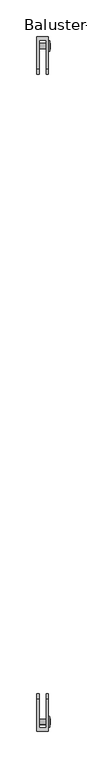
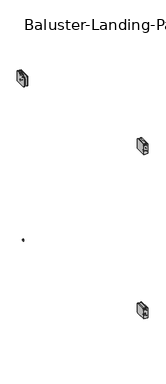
"""IFC4 building model written with IfcOpenShell, lengths in millimetres: railing geometry, Baluster-Landing-Panel-VIVA-BEACON-Lower : Standard_Glass."""

from ifc_helpers import new_model, si_unit, point, frame, origin, place, context, project, spatial, polyline, circle_curve, ellipse_curve, trimmed, outline, extrude, source, transform, mapped, element, save
from ifc_brep_helpers import plane_surface, cylinder_surface, revolved_surface, advanced_brep


def baluster_landing_panel_viva_beacon_lower_standard_glass_8b22f319(model_context):
    return source(origin(), model_context, "Body", "SolidModel", [
        extrude(outline(polyline([(-910.1150835, 973.286725), (-908.0681194, 976.8321709), (-903.9741911, 976.8321709), (-901.9272269, 973.286725), (-903.9741911, 969.7412791), (-908.0681194, 969.7412791), (-910.1150835, 973.286725)])), frame((46.904612, 0.0, 0.0), z_axis=(1.0, 0.0, 0.0), x_axis=(0.0, 1.0, 0.0)), (0.0, 0.0, 1.0), 1.4969696),
        advanced_brep(
        [(33.3375, -909.5666011, 973.286725), (33.3375, -902.4757093, 973.286725), (46.0375, -902.4757093, 973.286725), (46.0375, -909.5666011, 973.286725), (46.0375, -898.6133661, 973.286725), (46.0375, -913.4289443, 973.286725), (46.904612, -907.6772306, 973.286725), (46.904612, -904.3650798, 973.286725), (33.3375, -904.3650798, 973.286725), (33.3375, -907.6772306, 973.286725), (46.8723449, -913.4289443, 973.286725), (46.8723449, -898.6133661, 973.286725), (48.1536169, -899.8946382, 973.286725), (48.1536169, -912.1476723, 973.286725), (48.1536169, -901.7225597, 973.286725), (48.1536169, -910.3197508, 973.286725), (46.904612, -901.7225597, 973.286725), (46.904612, -910.3197508, 973.286725)],
        [
            (0, 1, circle_curve(frame((33.3375, -906.0211552, 973.286725), z_axis=(1.0, 0.0, 0.0), x_axis=(0.0, 1.0, 0.0)), 3.5454459)),
            (1, 2),
            (2, 3, circle_curve(frame((46.0375, -906.0211552, 973.286725), z_axis=(-1.0, 0.0, 0.0), x_axis=(0.0, 1.0, 0.0)), 3.5454459)),
            (3, 0),
            (1, 0, circle_curve(frame((33.3375, -906.0211552, 973.286725), z_axis=(1.0, 0.0, 0.0), x_axis=(0.0, 1.0, 0.0)), 3.5454459)),
            (3, 2, circle_curve(frame((46.0375, -906.0211552, 973.286725), z_axis=(-1.0, 0.0, 0.0), x_axis=(0.0, 1.0, 0.0)), 3.5454459)),
            (2, 4),
            (4, 5, circle_curve(frame((46.0375, -906.0211552, 973.286725), z_axis=(-1.0, 0.0, 0.0), x_axis=(0.0, 1.0, 0.0)), 7.4077891)),
            (5, 3),
            (5, 4, circle_curve(frame((46.0375, -906.0211552, 973.286725), z_axis=(-1.0, 0.0, 0.0), x_axis=(0.0, 1.0, 0.0)), 7.4077891)),
            (6, 7, circle_curve(frame((46.904612, -906.0211552, 973.286725), z_axis=(1.0, 0.0, 0.0), x_axis=(0.0, 1.0, 0.0)), 1.6560754)),
            (7, 8),
            (8, 9, circle_curve(frame((33.3375, -906.0211552, 973.286725), z_axis=(-1.0, 0.0, 0.0), x_axis=(0.0, 1.0, 0.0)), 1.6560754)),
            (9, 6),
            (7, 6, circle_curve(frame((46.904612, -906.0211552, 973.286725), z_axis=(1.0, 0.0, 0.0), x_axis=(0.0, 1.0, 0.0)), 1.6560754)),
            (9, 8, circle_curve(frame((33.3375, -906.0211552, 973.286725), z_axis=(-1.0, 0.0, 0.0), x_axis=(0.0, 1.0, 0.0)), 1.6560754)),
            (10, 11, circle_curve(frame((46.8723449, -906.0211552, 973.286725), z_axis=(1.0, 0.0, 0.0), x_axis=(0.0, 1.0, 0.0)), 7.4077891)),
            (11, 12, circle_curve(frame((46.8723449, -899.8946382, 973.286725), z_axis=(0.0, 0.0, -1.0), x_axis=(0.0, 1.0, 0.0)), 1.281272)),
            (12, 13, circle_curve(frame((48.1536169, -906.0211552, 973.286725), z_axis=(-1.0, 0.0, 0.0), x_axis=(0.0, 1.0, 0.0)), 6.1265171)),
            (13, 10, circle_curve(frame((46.8723449, -912.1476723, 973.286725), z_axis=(0.0, 0.0, -1.0), x_axis=(0.0, -1.0, 0.0)), 1.281272)),
            (11, 10, circle_curve(frame((46.8723449, -906.0211552, 973.286725), z_axis=(1.0, 0.0, 0.0), x_axis=(0.0, 1.0, 0.0)), 7.4077891)),
            (13, 12, circle_curve(frame((48.1536169, -906.0211552, 973.286725), z_axis=(-1.0, 0.0, 0.0), x_axis=(0.0, 1.0, 0.0)), 6.1265171)),
            (12, 14),
            (14, 15, circle_curve(frame((48.1536169, -906.0211552, 973.286725), z_axis=(-1.0, 0.0, 0.0), x_axis=(0.0, 1.0, 0.0)), 4.2985955)),
            (15, 13),
            (15, 14, circle_curve(frame((48.1536169, -906.0211552, 973.286725), z_axis=(-1.0, 0.0, 0.0), x_axis=(0.0, 1.0, 0.0)), 4.2985955)),
            (4, 11),
            (10, 5),
            (8, 1),
            (0, 9),
            (14, 16),
            (16, 17, circle_curve(frame((46.904612, -906.0211552, 973.286725), z_axis=(-1.0, 0.0, 0.0), x_axis=(0.0, 1.0, 0.0)), 4.2985955)),
            (17, 15),
            (17, 16, circle_curve(frame((46.904612, -906.0211552, 973.286725), z_axis=(-1.0, 0.0, 0.0), x_axis=(0.0, 1.0, 0.0)), 4.2985955)),
            (16, 7),
            (6, 17),
        ],
        [
            cylinder_surface(frame((42.5407669, -906.0211552, 973.286725), z_axis=(-1.0, 0.0, 0.0), x_axis=(0.0, 1.0, 0.0)), 3.5454459),
            plane_surface(frame((46.0375, -906.0211552, 973.286725), z_axis=(-1.0, 0.0, 0.0), x_axis=(0.0, 1.0, 0.0))),
            revolved_surface(polyline([(33.3375, -904.3650798, 973.286725), (46.904612, -904.3650798, 973.286725)]), (42.5407669, -906.0211552, 973.286725), (-1.0, 0.0, 0.0)),
            revolved_surface(trimmed(ellipse_curve(frame((46.8723449, -899.8946382, 973.286725), z_axis=(0.0, 0.0, 1.0), x_axis=(0.0, 1.0, 0.0)), 1.281272, 1.281272), [point((48.1536169, -899.8946382, 973.286725))], [point((46.8723449, -898.6133661, 973.286725))], True, "CARTESIAN"), (42.5407669, -906.0211552, 973.286725), (-1.0, 0.0, 0.0)),
            plane_surface(frame((48.1536169, -906.0211552, 973.286725), z_axis=(1.0, 0.0, 0.0), x_axis=(0.0, 1.0, 0.0))),
            cylinder_surface(frame((42.5407669, -906.0211552, 973.286725), z_axis=(-1.0, 0.0, 0.0), x_axis=(0.0, 1.0, 0.0)), 7.4077891),
            plane_surface(frame((33.3375, -906.0211552, 973.286725), z_axis=(-1.0, 0.0, 0.0), x_axis=(0.0, 1.0, 0.0))),
            revolved_surface(polyline([(46.904612, -901.7225596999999, 973.286725), (48.1536169, -901.7225596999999, 973.286725)]), (42.5407669, -906.0211552, 973.286725), (-1.0, 0.0, 0.0)),
            plane_surface(frame((46.904612, -906.0211552, 973.286725), z_axis=(1.0, 0.0, 0.0), x_axis=(0.0, 1.0, 0.0))),
        ],
        [
            (0, [[1, 2, 3, 4]]),
            (0, [[5, -4, 6, -2]]),
            (1, [[-3, 7, 8, 9]]),
            (1, [[-6, -9, 10, -7]]),
            (2, [[11, 12, 13, 14]]),
            (2, [[15, -14, 16, -12]]),
            (3, [[17, 18, 19, 20]]),
            (3, [[21, -20, 22, -18]]),
            (4, [[-19, 23, 24, 25]]),
            (4, [[-22, -25, 26, -23]]),
            (5, [[-8, 27, -17, 28]]),
            (5, [[-10, -28, -21, -27]]),
            (6, [[-13, 29, -1, 30]]),
            (6, [[-16, -30, -5, -29]]),
            (7, [[-24, 31, 32, 33]]),
            (7, [[-26, -33, 34, -31]]),
            (8, [[-32, 35, -11, 36]]),
            (8, [[-34, -36, -15, -35]]),
        ],
    ),
        advanced_brep(
        [(33.3375, -909.5666011, 948.680475), (33.3375, -902.4757093, 948.680475), (46.0375, -902.4757093, 948.680475), (46.0375, -909.5666011, 948.680475), (46.0375, -898.6133661, 948.680475), (46.0375, -913.4289443, 948.680475), (46.904612, -907.6772306, 948.680475), (46.904612, -904.3650798, 948.680475), (33.3375, -904.3650798, 948.680475), (33.3375, -907.6772306, 948.680475), (46.8723449, -913.4289443, 948.680475), (46.8723449, -898.6133661, 948.680475), (48.1536169, -899.8946382, 948.680475), (48.1536169, -912.1476723, 948.680475), (48.1536169, -901.7225597, 948.680475), (48.1536169, -910.3197508, 948.680475), (46.904612, -901.7225597, 948.680475), (46.904612, -910.3197508, 948.680475)],
        [
            (0, 1, circle_curve(frame((33.3375, -906.0211552, 948.680475), z_axis=(1.0, 0.0, 0.0), x_axis=(0.0, 1.0, 0.0)), 3.5454459)),
            (1, 2),
            (2, 3, circle_curve(frame((46.0375, -906.0211552, 948.680475), z_axis=(-1.0, 0.0, 0.0), x_axis=(0.0, 1.0, 0.0)), 3.5454459)),
            (3, 0),
            (1, 0, circle_curve(frame((33.3375, -906.0211552, 948.680475), z_axis=(1.0, 0.0, 0.0), x_axis=(0.0, 1.0, 0.0)), 3.5454459)),
            (3, 2, circle_curve(frame((46.0375, -906.0211552, 948.680475), z_axis=(-1.0, 0.0, 0.0), x_axis=(0.0, 1.0, 0.0)), 3.5454459)),
            (2, 4),
            (4, 5, circle_curve(frame((46.0375, -906.0211552, 948.680475), z_axis=(-1.0, 0.0, 0.0), x_axis=(0.0, 1.0, 0.0)), 7.4077891)),
            (5, 3),
            (5, 4, circle_curve(frame((46.0375, -906.0211552, 948.680475), z_axis=(-1.0, 0.0, 0.0), x_axis=(0.0, 1.0, 0.0)), 7.4077891)),
            (6, 7, circle_curve(frame((46.904612, -906.0211552, 948.680475), z_axis=(1.0, 0.0, 0.0), x_axis=(0.0, 1.0, 0.0)), 1.6560754)),
            (7, 8),
            (8, 9, circle_curve(frame((33.3375, -906.0211552, 948.680475), z_axis=(-1.0, 0.0, 0.0), x_axis=(0.0, 1.0, 0.0)), 1.6560754)),
            (9, 6),
            (7, 6, circle_curve(frame((46.904612, -906.0211552, 948.680475), z_axis=(1.0, 0.0, 0.0), x_axis=(0.0, 1.0, 0.0)), 1.6560754)),
            (9, 8, circle_curve(frame((33.3375, -906.0211552, 948.680475), z_axis=(-1.0, 0.0, 0.0), x_axis=(0.0, 1.0, 0.0)), 1.6560754)),
            (10, 11, circle_curve(frame((46.8723449, -906.0211552, 948.680475), z_axis=(1.0, 0.0, 0.0), x_axis=(0.0, 1.0, 0.0)), 7.4077891)),
            (11, 12, circle_curve(frame((46.8723449, -899.8946382, 948.680475), z_axis=(0.0, 0.0, -1.0), x_axis=(0.0, 1.0, 0.0)), 1.281272)),
            (12, 13, circle_curve(frame((48.1536169, -906.0211552, 948.680475), z_axis=(-1.0, 0.0, 0.0), x_axis=(0.0, 1.0, 0.0)), 6.1265171)),
            (13, 10, circle_curve(frame((46.8723449, -912.1476723, 948.680475), z_axis=(0.0, 0.0, -1.0), x_axis=(0.0, -1.0, 0.0)), 1.281272)),
            (11, 10, circle_curve(frame((46.8723449, -906.0211552, 948.680475), z_axis=(1.0, 0.0, 0.0), x_axis=(0.0, 1.0, 0.0)), 7.4077891)),
            (13, 12, circle_curve(frame((48.1536169, -906.0211552, 948.680475), z_axis=(-1.0, 0.0, 0.0), x_axis=(0.0, 1.0, 0.0)), 6.1265171)),
            (12, 14),
            (14, 15, circle_curve(frame((48.1536169, -906.0211552, 948.680475), z_axis=(-1.0, 0.0, 0.0), x_axis=(0.0, 1.0, 0.0)), 4.2985955)),
            (15, 13),
            (15, 14, circle_curve(frame((48.1536169, -906.0211552, 948.680475), z_axis=(-1.0, 0.0, 0.0), x_axis=(0.0, 1.0, 0.0)), 4.2985955)),
            (8, 1),
            (0, 9),
            (4, 11),
            (10, 5),
            (14, 16),
            (16, 17, circle_curve(frame((46.904612, -906.0211552, 948.680475), z_axis=(-1.0, 0.0, 0.0), x_axis=(0.0, 1.0, 0.0)), 4.2985955)),
            (17, 15),
            (17, 16, circle_curve(frame((46.904612, -906.0211552, 948.680475), z_axis=(-1.0, 0.0, 0.0), x_axis=(0.0, 1.0, 0.0)), 4.2985955)),
            (16, 7),
            (6, 17),
        ],
        [
            cylinder_surface(frame((42.5407669, -906.0211552, 948.680475), z_axis=(-1.0, 0.0, 0.0), x_axis=(0.0, 1.0, 0.0)), 3.5454459),
            plane_surface(frame((46.0375, -906.0211552, 948.680475), z_axis=(-1.0, 0.0, 0.0), x_axis=(0.0, 1.0, 0.0))),
            revolved_surface(polyline([(33.3375, -904.3650798, 948.680475), (46.904612, -904.3650798, 948.680475)]), (42.5407669, -906.0211552, 948.680475), (-1.0, 0.0, 0.0)),
            revolved_surface(trimmed(ellipse_curve(frame((46.8723449, -899.8946382, 948.680475), z_axis=(0.0, 0.0, 1.0), x_axis=(0.0, 1.0, 0.0)), 1.281272, 1.281272), [point((48.1536169, -899.8946382, 948.680475))], [point((46.8723449, -898.6133661, 948.680475))], True, "CARTESIAN"), (42.5407669, -906.0211552, 948.680475), (-1.0, 0.0, 0.0)),
            plane_surface(frame((48.1536169, -906.0211552, 948.680475), z_axis=(1.0, 0.0, 0.0), x_axis=(0.0, 1.0, 0.0))),
            plane_surface(frame((33.3375, -906.0211552, 948.680475), z_axis=(-1.0, 0.0, 0.0), x_axis=(0.0, 1.0, 0.0))),
            cylinder_surface(frame((42.5407669, -906.0211552, 948.680475), z_axis=(-1.0, 0.0, 0.0), x_axis=(0.0, 1.0, 0.0)), 7.4077891),
            revolved_surface(polyline([(46.904612, -901.7225596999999, 948.680475), (48.1536169, -901.7225596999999, 948.680475)]), (42.5407669, -906.0211552, 948.680475), (-1.0, 0.0, 0.0)),
            plane_surface(frame((46.904612, -906.0211552, 948.680475), z_axis=(1.0, 0.0, 0.0), x_axis=(0.0, 1.0, 0.0))),
        ],
        [
            (0, [[1, 2, 3, 4]]),
            (0, [[5, -4, 6, -2]]),
            (1, [[-3, 7, 8, 9]]),
            (1, [[-6, -9, 10, -7]]),
            (2, [[11, 12, 13, 14]]),
            (2, [[15, -14, 16, -12]]),
            (3, [[17, 18, 19, 20]]),
            (3, [[21, -20, 22, -18]]),
            (4, [[-19, 23, 24, 25]]),
            (4, [[-22, -25, 26, -23]]),
            (5, [[-13, 27, -1, 28]]),
            (5, [[-16, -28, -5, -27]]),
            (6, [[-8, 29, -17, 30]]),
            (6, [[-10, -30, -21, -29]]),
            (7, [[-24, 31, 32, 33]]),
            (7, [[-26, -33, 34, -31]]),
            (8, [[-32, 35, -11, 36]]),
            (8, [[-34, -36, -15, -35]]),
        ],
    ),
        extrude(outline(polyline([(-910.1150835, 948.680475), (-908.0681194, 952.2259209), (-903.9741911, 952.2259209), (-901.9272269, 948.680475), (-903.9741911, 945.1350291), (-908.0681194, 945.1350291), (-910.1150835, 948.680475)])), frame((46.904612, 0.0, 0.0), z_axis=(1.0, 0.0, 0.0), x_axis=(0.0, 1.0, 0.0)), (0.0, 0.0, 1.0), 1.4969696),
        advanced_brep(
        [(46.0375, -918.6545, 983.2086), (46.0375, -918.6545, 938.7586), (46.0375, -874.2045, 938.7586), (46.0375, -867.8545, 945.1086), (46.0375, -867.8545, 976.8586), (46.0375, -874.2045, 983.2086), (30.1625, -918.6545, 983.2086), (30.1625, -874.2045, 983.2086), (30.1625, -867.8545, 976.8586), (30.1625, -867.8545, 945.1086), (30.1625, -874.2045, 938.7586), (30.1625, -918.6545, 938.7586), (33.3375, -874.2045, 938.7586), (33.3375, -913.9364196, 938.7586), (42.8625, -913.9364196, 938.7586), (42.8625, -874.2045, 938.7586), (33.3375, -913.9364196, 983.2086), (42.8625, -913.9364196, 983.2086), (42.8625, -874.2045, 983.2086), (42.8625, -867.8545, 976.8586), (42.8625, -867.8545, 945.1086), (33.3375, -867.8545, 945.1086), (33.3375, -867.8545, 976.8586), (33.3375, -874.2045, 983.2086)],
        [
            (0, 1),
            (1, 2),
            (2, 3, circle_curve(frame((46.0375, -874.2045, 945.1086), z_axis=(1.0, 0.0, 0.0), x_axis=(0.0, 1.0, 0.0)), 6.35)),
            (3, 4),
            (4, 5, circle_curve(frame((46.0375, -874.2045, 976.8586), z_axis=(1.0, 0.0, 0.0), x_axis=(0.0, 1.0, 0.0)), 6.35)),
            (5, 0),
            (6, 7),
            (7, 8, circle_curve(frame((30.1625, -874.2045, 976.8586), z_axis=(-1.0, 0.0, 0.0), x_axis=(0.0, 1.0, 0.0)), 6.35)),
            (8, 9),
            (9, 10, circle_curve(frame((30.1625, -874.2045, 945.1086), z_axis=(-1.0, 0.0, 0.0), x_axis=(0.0, 1.0, 0.0)), 6.35)),
            (10, 11),
            (11, 6),
            (0, 6),
            (11, 1),
            (10, 12),
            (12, 13),
            (13, 14),
            (14, 15),
            (15, 2),
            (13, 16),
            (16, 17),
            (17, 14),
            (17, 18),
            (18, 19, circle_curve(frame((42.8625, -874.2045, 976.8586), z_axis=(-1.0, 0.0, 0.0), x_axis=(0.0, 1.0, 0.0)), 6.35)),
            (19, 20),
            (20, 15, circle_curve(frame((42.8625, -874.2045, 945.1086), z_axis=(-1.0, 0.0, 0.0), x_axis=(0.0, 1.0, 0.0)), 6.35)),
            (12, 21, circle_curve(frame((33.3375, -874.2045, 945.1086), z_axis=(1.0, 0.0, 0.0), x_axis=(0.0, 1.0, 0.0)), 6.35)),
            (21, 22),
            (22, 23, circle_curve(frame((33.3375, -874.2045, 976.8586), z_axis=(1.0, 0.0, 0.0), x_axis=(0.0, 1.0, 0.0)), 6.35)),
            (23, 16),
            (20, 3),
            (9, 21),
            (19, 4),
            (8, 22),
            (18, 5),
            (7, 23),
        ],
        [
            plane_surface(frame((46.0375, -918.6545, 938.7586), z_axis=(1.0, 0.0, 0.0), x_axis=(0.0, 0.0, -1.0))),
            plane_surface(frame((30.1625, -918.6545, 938.7586), z_axis=(-1.0, 0.0, 0.0), x_axis=(0.0, 0.0, 1.0))),
            plane_surface(frame((46.0375, -918.6545, 983.2086), z_axis=(0.0, -1.0, 0.0), x_axis=(-1.0, 0.0, 0.0))),
            plane_surface(frame((46.0375, -918.6545, 938.7586), z_axis=(0.0, 0.0, -1.0), x_axis=(-1.0, 0.0, 0.0))),
            plane_surface(frame((33.3375, -913.9364196, 995.9086), z_axis=(0.0, 1.0, 0.0), x_axis=(0.0, 0.0, -1.0))),
            plane_surface(frame((42.8625, -913.9364196, 995.9086), z_axis=(-1.0, 0.0, 0.0), x_axis=(0.0, 0.0, -1.0))),
            plane_surface(frame((33.3375, -855.1545, 995.9086), z_axis=(1.0, 0.0, 0.0), x_axis=(0.0, 0.0, -1.0))),
            cylinder_surface(frame((30.1625, -874.2045, 945.1086), z_axis=(1.0, 0.0, 0.0), x_axis=(0.0, 1.0, 0.0)), 6.35),
            plane_surface(frame((46.0375, -867.8545, 945.1086), z_axis=(0.0, 1.0, 0.0), x_axis=(-1.0, 0.0, 0.0))),
            cylinder_surface(frame((30.1625, -874.2045, 976.8586), z_axis=(1.0, 0.0, 0.0), x_axis=(0.0, 1.0, 0.0)), 6.35),
            plane_surface(frame((46.0375, -874.2045, 983.2086), z_axis=(0.0, 0.0, 1.0), x_axis=(-1.0, 0.0, 0.0))),
        ],
        [
            (0, [[1, 2, 3, 4, 5, 6]]),
            (1, [[7, 8, 9, 10, 11, 12]]),
            (2, [[-1, 13, -12, 14]]),
            (3, [[-2, -14, -11, 15, 16, 17, 18, 19]]),
            (4, [[20, 21, 22, -17]]),
            (5, [[-22, 23, 24, 25, 26, -18]]),
            (6, [[-20, -16, 27, 28, 29, 30]]),
            (7, [[-3, -19, -26, 31]]),
            (7, [[-10, 32, -27, -15]]),
            (8, [[-4, -31, -25, 33]]),
            (8, [[-9, 34, -28, -32]]),
            (9, [[-5, -33, -24, 35]]),
            (9, [[-8, 36, -29, -34]]),
            (10, [[-6, -35, -23, -21, -30, -36, -7, -13]]),
        ],
    ),
        extrude(outline(polyline([(-910.1150835, 225.917125), (-908.0681194, 229.4625709), (-903.9741911, 229.4625709), (-901.9272269, 225.917125), (-903.9741911, 222.3716791), (-908.0681194, 222.3716791), (-910.1150835, 225.917125)])), frame((46.904612, 0.0, 0.0), z_axis=(1.0, 0.0, 0.0), x_axis=(0.0, 1.0, 0.0)), (0.0, 0.0, 1.0), 1.4969696),
        advanced_brep(
        [(33.3375, -909.5666011, 225.917125), (33.3375, -902.4757093, 225.917125), (46.0375, -902.4757093, 225.917125), (46.0375, -909.5666011, 225.917125), (46.0375, -898.6133661, 225.917125), (46.0375, -913.4289443, 225.917125), (46.904612, -907.6772306, 225.917125), (46.904612, -904.3650798, 225.917125), (33.3375, -904.3650798, 225.917125), (33.3375, -907.6772306, 225.917125), (46.8723449, -913.4289443, 225.917125), (46.8723449, -898.6133661, 225.917125), (48.1536169, -899.8946382, 225.917125), (48.1536169, -912.1476723, 225.917125), (48.1536169, -901.7225597, 225.917125), (48.1536169, -910.3197508, 225.917125), (46.904612, -901.7225597, 225.917125), (46.904612, -910.3197508, 225.917125)],
        [
            (0, 1, circle_curve(frame((33.3375, -906.0211552, 225.917125), z_axis=(1.0, 0.0, 0.0), x_axis=(0.0, 1.0, 0.0)), 3.5454459)),
            (1, 2),
            (2, 3, circle_curve(frame((46.0375, -906.0211552, 225.917125), z_axis=(-1.0, 0.0, 0.0), x_axis=(0.0, 1.0, 0.0)), 3.5454459)),
            (3, 0),
            (1, 0, circle_curve(frame((33.3375, -906.0211552, 225.917125), z_axis=(1.0, 0.0, 0.0), x_axis=(0.0, 1.0, 0.0)), 3.5454459)),
            (3, 2, circle_curve(frame((46.0375, -906.0211552, 225.917125), z_axis=(-1.0, 0.0, 0.0), x_axis=(0.0, 1.0, 0.0)), 3.5454459)),
            (2, 4),
            (4, 5, circle_curve(frame((46.0375, -906.0211552, 225.917125), z_axis=(-1.0, 0.0, 0.0), x_axis=(0.0, 1.0, 0.0)), 7.4077891)),
            (5, 3),
            (5, 4, circle_curve(frame((46.0375, -906.0211552, 225.917125), z_axis=(-1.0, 0.0, 0.0), x_axis=(0.0, 1.0, 0.0)), 7.4077891)),
            (6, 7, circle_curve(frame((46.904612, -906.0211552, 225.917125), z_axis=(1.0, 0.0, 0.0), x_axis=(0.0, 1.0, 0.0)), 1.6560754)),
            (7, 8),
            (8, 9, circle_curve(frame((33.3375, -906.0211552, 225.917125), z_axis=(-1.0, 0.0, 0.0), x_axis=(0.0, 1.0, 0.0)), 1.6560754)),
            (9, 6),
            (7, 6, circle_curve(frame((46.904612, -906.0211552, 225.917125), z_axis=(1.0, 0.0, 0.0), x_axis=(0.0, 1.0, 0.0)), 1.6560754)),
            (9, 8, circle_curve(frame((33.3375, -906.0211552, 225.917125), z_axis=(-1.0, 0.0, 0.0), x_axis=(0.0, 1.0, 0.0)), 1.6560754)),
            (10, 11, circle_curve(frame((46.8723449, -906.0211552, 225.917125), z_axis=(1.0, 0.0, 0.0), x_axis=(0.0, 1.0, 0.0)), 7.4077891)),
            (11, 12, circle_curve(frame((46.8723449, -899.8946382, 225.917125), z_axis=(0.0, 0.0, -1.0), x_axis=(0.0, 1.0, 0.0)), 1.281272)),
            (12, 13, circle_curve(frame((48.1536169, -906.0211552, 225.917125), z_axis=(-1.0, 0.0, 0.0), x_axis=(0.0, 1.0, 0.0)), 6.1265171)),
            (13, 10, circle_curve(frame((46.8723449, -912.1476723, 225.917125), z_axis=(0.0, 0.0, -1.0), x_axis=(0.0, -1.0, 0.0)), 1.281272)),
            (11, 10, circle_curve(frame((46.8723449, -906.0211552, 225.917125), z_axis=(1.0, 0.0, 0.0), x_axis=(0.0, 1.0, 0.0)), 7.4077891)),
            (13, 12, circle_curve(frame((48.1536169, -906.0211552, 225.917125), z_axis=(-1.0, 0.0, 0.0), x_axis=(0.0, 1.0, 0.0)), 6.1265171)),
            (12, 14),
            (14, 15, circle_curve(frame((48.1536169, -906.0211552, 225.917125), z_axis=(-1.0, 0.0, 0.0), x_axis=(0.0, 1.0, 0.0)), 4.2985955)),
            (15, 13),
            (15, 14, circle_curve(frame((48.1536169, -906.0211552, 225.917125), z_axis=(-1.0, 0.0, 0.0), x_axis=(0.0, 1.0, 0.0)), 4.2985955)),
            (4, 11),
            (10, 5),
            (8, 1),
            (0, 9),
            (14, 16),
            (16, 17, circle_curve(frame((46.904612, -906.0211552, 225.917125), z_axis=(-1.0, 0.0, 0.0), x_axis=(0.0, 1.0, 0.0)), 4.2985955)),
            (17, 15),
            (17, 16, circle_curve(frame((46.904612, -906.0211552, 225.917125), z_axis=(-1.0, 0.0, 0.0), x_axis=(0.0, 1.0, 0.0)), 4.2985955)),
            (16, 7),
            (6, 17),
        ],
        [
            cylinder_surface(frame((42.5407669, -906.0211552, 225.917125), z_axis=(-1.0, 0.0, 0.0), x_axis=(0.0, 1.0, 0.0)), 3.5454459),
            plane_surface(frame((46.0375, -906.0211552, 225.917125), z_axis=(-1.0, 0.0, 0.0), x_axis=(0.0, 1.0, 0.0))),
            revolved_surface(polyline([(33.3375, -904.3650798, 225.917125), (46.904612, -904.3650798, 225.917125)]), (42.5407669, -906.0211552, 225.917125), (-1.0, 0.0, 0.0)),
            revolved_surface(trimmed(ellipse_curve(frame((46.8723449, -899.8946382, 225.917125), z_axis=(0.0, 0.0, 1.0), x_axis=(0.0, 1.0, 0.0)), 1.281272, 1.281272), [point((48.1536169, -899.8946382, 225.917125))], [point((46.8723449, -898.6133661, 225.917125))], True, "CARTESIAN"), (42.5407669, -906.0211552, 225.917125), (-1.0, 0.0, 0.0)),
            plane_surface(frame((48.1536169, -906.0211552, 225.917125), z_axis=(1.0, 0.0, 0.0), x_axis=(0.0, 1.0, 0.0))),
            cylinder_surface(frame((42.5407669, -906.0211552, 225.917125), z_axis=(-1.0, 0.0, 0.0), x_axis=(0.0, 1.0, 0.0)), 7.4077891),
            plane_surface(frame((33.3375, -906.0211552, 225.917125), z_axis=(-1.0, 0.0, 0.0), x_axis=(0.0, 1.0, 0.0))),
            revolved_surface(polyline([(46.904612, -901.7225596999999, 225.917125), (48.1536169, -901.7225596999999, 225.917125)]), (42.5407669, -906.0211552, 225.917125), (-1.0, 0.0, 0.0)),
            plane_surface(frame((46.904612, -906.0211552, 225.917125), z_axis=(1.0, 0.0, 0.0), x_axis=(0.0, 1.0, 0.0))),
        ],
        [
            (0, [[1, 2, 3, 4]]),
            (0, [[5, -4, 6, -2]]),
            (1, [[-3, 7, 8, 9]]),
            (1, [[-6, -9, 10, -7]]),
            (2, [[11, 12, 13, 14]]),
            (2, [[15, -14, 16, -12]]),
            (3, [[17, 18, 19, 20]]),
            (3, [[21, -20, 22, -18]]),
            (4, [[-19, 23, 24, 25]]),
            (4, [[-22, -25, 26, -23]]),
            (5, [[-8, 27, -17, 28]]),
            (5, [[-10, -28, -21, -27]]),
            (6, [[-13, 29, -1, 30]]),
            (6, [[-16, -30, -5, -29]]),
            (7, [[-24, 31, 32, 33]]),
            (7, [[-26, -33, 34, -31]]),
            (8, [[-32, 35, -11, 36]]),
            (8, [[-34, -36, -15, -35]]),
        ],
    ),
        advanced_brep(
        [(33.3375, -909.5666011, 201.310875), (33.3375, -902.4757093, 201.310875), (46.0375, -902.4757093, 201.310875), (46.0375, -909.5666011, 201.310875), (46.0375, -898.6133661, 201.310875), (46.0375, -913.4289443, 201.310875), (46.904612, -907.6772306, 201.310875), (46.904612, -904.3650798, 201.310875), (33.3375, -904.3650798, 201.310875), (33.3375, -907.6772306, 201.310875), (46.8723449, -913.4289443, 201.310875), (46.8723449, -898.6133661, 201.310875), (48.1536169, -899.8946382, 201.310875), (48.1536169, -912.1476723, 201.310875), (48.1536169, -901.7225597, 201.310875), (48.1536169, -910.3197508, 201.310875), (46.904612, -901.7225597, 201.310875), (46.904612, -910.3197508, 201.310875)],
        [
            (0, 1, circle_curve(frame((33.3375, -906.0211552, 201.310875), z_axis=(1.0, 0.0, 0.0), x_axis=(0.0, 1.0, 0.0)), 3.5454459)),
            (1, 2),
            (2, 3, circle_curve(frame((46.0375, -906.0211552, 201.310875), z_axis=(-1.0, 0.0, 0.0), x_axis=(0.0, 1.0, 0.0)), 3.5454459)),
            (3, 0),
            (1, 0, circle_curve(frame((33.3375, -906.0211552, 201.310875), z_axis=(1.0, 0.0, 0.0), x_axis=(0.0, 1.0, 0.0)), 3.5454459)),
            (3, 2, circle_curve(frame((46.0375, -906.0211552, 201.310875), z_axis=(-1.0, 0.0, 0.0), x_axis=(0.0, 1.0, 0.0)), 3.5454459)),
            (2, 4),
            (4, 5, circle_curve(frame((46.0375, -906.0211552, 201.310875), z_axis=(-1.0, 0.0, 0.0), x_axis=(0.0, 1.0, 0.0)), 7.4077891)),
            (5, 3),
            (5, 4, circle_curve(frame((46.0375, -906.0211552, 201.310875), z_axis=(-1.0, 0.0, 0.0), x_axis=(0.0, 1.0, 0.0)), 7.4077891)),
            (6, 7, circle_curve(frame((46.904612, -906.0211552, 201.310875), z_axis=(1.0, 0.0, 0.0), x_axis=(0.0, 1.0, 0.0)), 1.6560754)),
            (7, 8),
            (8, 9, circle_curve(frame((33.3375, -906.0211552, 201.310875), z_axis=(-1.0, 0.0, 0.0), x_axis=(0.0, 1.0, 0.0)), 1.6560754)),
            (9, 6),
            (7, 6, circle_curve(frame((46.904612, -906.0211552, 201.310875), z_axis=(1.0, 0.0, 0.0), x_axis=(0.0, 1.0, 0.0)), 1.6560754)),
            (9, 8, circle_curve(frame((33.3375, -906.0211552, 201.310875), z_axis=(-1.0, 0.0, 0.0), x_axis=(0.0, 1.0, 0.0)), 1.6560754)),
            (10, 11, circle_curve(frame((46.8723449, -906.0211552, 201.310875), z_axis=(1.0, 0.0, 0.0), x_axis=(0.0, 1.0, 0.0)), 7.4077891)),
            (11, 12, circle_curve(frame((46.8723449, -899.8946382, 201.310875), z_axis=(0.0, 0.0, -1.0), x_axis=(0.0, 1.0, 0.0)), 1.281272)),
            (12, 13, circle_curve(frame((48.1536169, -906.0211552, 201.310875), z_axis=(-1.0, 0.0, 0.0), x_axis=(0.0, 1.0, 0.0)), 6.1265171)),
            (13, 10, circle_curve(frame((46.8723449, -912.1476723, 201.310875), z_axis=(0.0, 0.0, -1.0), x_axis=(0.0, -1.0, 0.0)), 1.281272)),
            (11, 10, circle_curve(frame((46.8723449, -906.0211552, 201.310875), z_axis=(1.0, 0.0, 0.0), x_axis=(0.0, 1.0, 0.0)), 7.4077891)),
            (13, 12, circle_curve(frame((48.1536169, -906.0211552, 201.310875), z_axis=(-1.0, 0.0, 0.0), x_axis=(0.0, 1.0, 0.0)), 6.1265171)),
            (12, 14),
            (14, 15, circle_curve(frame((48.1536169, -906.0211552, 201.310875), z_axis=(-1.0, 0.0, 0.0), x_axis=(0.0, 1.0, 0.0)), 4.2985955)),
            (15, 13),
            (15, 14, circle_curve(frame((48.1536169, -906.0211552, 201.310875), z_axis=(-1.0, 0.0, 0.0), x_axis=(0.0, 1.0, 0.0)), 4.2985955)),
            (8, 1),
            (0, 9),
            (4, 11),
            (10, 5),
            (14, 16),
            (16, 17, circle_curve(frame((46.904612, -906.0211552, 201.310875), z_axis=(-1.0, 0.0, 0.0), x_axis=(0.0, 1.0, 0.0)), 4.2985955)),
            (17, 15),
            (17, 16, circle_curve(frame((46.904612, -906.0211552, 201.310875), z_axis=(-1.0, 0.0, 0.0), x_axis=(0.0, 1.0, 0.0)), 4.2985955)),
            (16, 7),
            (6, 17),
        ],
        [
            cylinder_surface(frame((42.5407669, -906.0211552, 201.310875), z_axis=(-1.0, 0.0, 0.0), x_axis=(0.0, 1.0, 0.0)), 3.5454459),
            plane_surface(frame((46.0375, -906.0211552, 201.310875), z_axis=(-1.0, 0.0, 0.0), x_axis=(0.0, 1.0, 0.0))),
            revolved_surface(polyline([(33.3375, -904.3650798, 201.310875), (46.904612, -904.3650798, 201.310875)]), (42.5407669, -906.0211552, 201.310875), (-1.0, 0.0, 0.0)),
            revolved_surface(trimmed(ellipse_curve(frame((46.8723449, -899.8946382, 201.310875), z_axis=(0.0, 0.0, 1.0), x_axis=(0.0, 1.0, 0.0)), 1.281272, 1.281272), [point((48.1536169, -899.8946382, 201.310875))], [point((46.8723449, -898.6133661, 201.310875))], True, "CARTESIAN"), (42.5407669, -906.0211552, 201.310875), (-1.0, 0.0, 0.0)),
            plane_surface(frame((48.1536169, -906.0211552, 201.310875), z_axis=(1.0, 0.0, 0.0), x_axis=(0.0, 1.0, 0.0))),
            plane_surface(frame((33.3375, -906.0211552, 201.310875), z_axis=(-1.0, 0.0, 0.0), x_axis=(0.0, 1.0, 0.0))),
            cylinder_surface(frame((42.5407669, -906.0211552, 201.310875), z_axis=(-1.0, 0.0, 0.0), x_axis=(0.0, 1.0, 0.0)), 7.4077891),
            revolved_surface(polyline([(46.904612, -901.7225596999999, 201.310875), (48.1536169, -901.7225596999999, 201.310875)]), (42.5407669, -906.0211552, 201.310875), (-1.0, 0.0, 0.0)),
            plane_surface(frame((46.904612, -906.0211552, 201.310875), z_axis=(1.0, 0.0, 0.0), x_axis=(0.0, 1.0, 0.0))),
        ],
        [
            (0, [[1, 2, 3, 4]]),
            (0, [[5, -4, 6, -2]]),
            (1, [[-3, 7, 8, 9]]),
            (1, [[-6, -9, 10, -7]]),
            (2, [[11, 12, 13, 14]]),
            (2, [[15, -14, 16, -12]]),
            (3, [[17, 18, 19, 20]]),
            (3, [[21, -20, 22, -18]]),
            (4, [[-19, 23, 24, 25]]),
            (4, [[-22, -25, 26, -23]]),
            (5, [[-13, 27, -1, 28]]),
            (5, [[-16, -28, -5, -27]]),
            (6, [[-8, 29, -17, 30]]),
            (6, [[-10, -30, -21, -29]]),
            (7, [[-24, 31, 32, 33]]),
            (7, [[-26, -33, 34, -31]]),
            (8, [[-32, 35, -11, 36]]),
            (8, [[-34, -36, -15, -35]]),
        ],
    ),
        extrude(outline(polyline([(-910.1150835, 201.310875), (-908.0681194, 204.8563209), (-903.9741911, 204.8563209), (-901.9272269, 201.310875), (-903.9741911, 197.7654291), (-908.0681194, 197.7654291), (-910.1150835, 201.310875)])), frame((46.904612, 0.0, 0.0), z_axis=(1.0, 0.0, 0.0), x_axis=(0.0, 1.0, 0.0)), (0.0, 0.0, 1.0), 1.4969696),
        advanced_brep(
        [(46.0375, -918.6545, 235.839), (46.0375, -918.6545, 191.389), (46.0375, -874.2045, 191.389), (46.0375, -867.8545, 197.739), (46.0375, -867.8545, 229.489), (46.0375, -874.2045, 235.839), (30.1625, -918.6545, 235.839), (30.1625, -874.2045, 235.839), (30.1625, -867.8545, 229.489), (30.1625, -867.8545, 197.739), (30.1625, -874.2045, 191.389), (30.1625, -918.6545, 191.389), (33.3375, -874.2045, 191.389), (33.3375, -913.9364196, 191.389), (42.8625, -913.9364196, 191.389), (42.8625, -874.2045, 191.389), (33.3375, -913.9364196, 235.839), (42.8625, -913.9364196, 235.839), (42.8625, -874.2045, 235.839), (42.8625, -867.8545, 229.489), (42.8625, -867.8545, 197.739), (33.3375, -867.8545, 197.739), (33.3375, -867.8545, 229.489), (33.3375, -874.2045, 235.839)],
        [
            (0, 1),
            (1, 2),
            (2, 3, circle_curve(frame((46.0375, -874.2045, 197.739), z_axis=(1.0, 0.0, 0.0), x_axis=(0.0, 1.0, 0.0)), 6.35)),
            (3, 4),
            (4, 5, circle_curve(frame((46.0375, -874.2045, 229.489), z_axis=(1.0, 0.0, 0.0), x_axis=(0.0, 1.0, 0.0)), 6.35)),
            (5, 0),
            (6, 7),
            (7, 8, circle_curve(frame((30.1625, -874.2045, 229.489), z_axis=(-1.0, 0.0, 0.0), x_axis=(0.0, 1.0, 0.0)), 6.35)),
            (8, 9),
            (9, 10, circle_curve(frame((30.1625, -874.2045, 197.739), z_axis=(-1.0, 0.0, 0.0), x_axis=(0.0, 1.0, 0.0)), 6.35)),
            (10, 11),
            (11, 6),
            (0, 6),
            (11, 1),
            (10, 12),
            (12, 13),
            (13, 14),
            (14, 15),
            (15, 2),
            (13, 16),
            (16, 17),
            (17, 14),
            (17, 18),
            (18, 19, circle_curve(frame((42.8625, -874.2045, 229.489), z_axis=(-1.0, 0.0, 0.0), x_axis=(0.0, 1.0, 0.0)), 6.35)),
            (19, 20),
            (20, 15, circle_curve(frame((42.8625, -874.2045, 197.739), z_axis=(-1.0, 0.0, 0.0), x_axis=(0.0, 1.0, 0.0)), 6.35)),
            (12, 21, circle_curve(frame((33.3375, -874.2045, 197.739), z_axis=(1.0, 0.0, 0.0), x_axis=(0.0, 1.0, 0.0)), 6.35)),
            (21, 22),
            (22, 23, circle_curve(frame((33.3375, -874.2045, 229.489), z_axis=(1.0, 0.0, 0.0), x_axis=(0.0, 1.0, 0.0)), 6.35)),
            (23, 16),
            (20, 3),
            (9, 21),
            (19, 4),
            (8, 22),
            (18, 5),
            (7, 23),
        ],
        [
            plane_surface(frame((46.0375, -918.6545, 191.389), z_axis=(1.0, 0.0, 0.0), x_axis=(0.0, 0.0, -1.0))),
            plane_surface(frame((30.1625, -918.6545, 191.389), z_axis=(-1.0, 0.0, 0.0), x_axis=(0.0, 0.0, 1.0))),
            plane_surface(frame((46.0375, -918.6545, 235.839), z_axis=(0.0, -1.0, 0.0), x_axis=(-1.0, 0.0, 0.0))),
            plane_surface(frame((46.0375, -918.6545, 191.389), z_axis=(0.0, 0.0, -1.0), x_axis=(-1.0, 0.0, 0.0))),
            plane_surface(frame((33.3375, -913.9364196, 248.539), z_axis=(0.0, 1.0, 0.0), x_axis=(0.0, 0.0, -1.0))),
            plane_surface(frame((42.8625, -913.9364196, 248.539), z_axis=(-1.0, 0.0, 0.0), x_axis=(0.0, 0.0, -1.0))),
            plane_surface(frame((33.3375, -855.1545, 248.539), z_axis=(1.0, 0.0, 0.0), x_axis=(0.0, 0.0, -1.0))),
            cylinder_surface(frame((30.1625, -874.2045, 197.739), z_axis=(1.0, 0.0, 0.0), x_axis=(0.0, 1.0, 0.0)), 6.35),
            plane_surface(frame((46.0375, -867.8545, 197.739), z_axis=(0.0, 1.0, 0.0), x_axis=(-1.0, 0.0, 0.0))),
            cylinder_surface(frame((30.1625, -874.2045, 229.489), z_axis=(1.0, 0.0, 0.0), x_axis=(0.0, 1.0, 0.0)), 6.35),
            plane_surface(frame((46.0375, -874.2045, 235.839), z_axis=(0.0, 0.0, 1.0), x_axis=(-1.0, 0.0, 0.0))),
        ],
        [
            (0, [[1, 2, 3, 4, 5, 6]]),
            (1, [[7, 8, 9, 10, 11, 12]]),
            (2, [[-1, 13, -12, 14]]),
            (3, [[-2, -14, -11, 15, 16, 17, 18, 19]]),
            (4, [[20, 21, 22, -17]]),
            (5, [[-22, 23, 24, 25, 26, -18]]),
            (6, [[-20, -16, 27, 28, 29, 30]]),
            (7, [[-3, -19, -26, 31]]),
            (7, [[-10, 32, -27, -15]]),
            (8, [[-4, -31, -25, 33]]),
            (8, [[-9, 34, -28, -32]]),
            (9, [[-5, -33, -24, 35]]),
            (9, [[-8, 36, -29, -34]]),
            (10, [[-6, -35, -23, -21, -30, -36, -7, -13]]),
        ],
    ),
        extrude(outline(polyline([(18.4480835, 736.5329842), (16.4011194, 732.9875382), (12.3071911, 732.9875382), (10.2602269, 736.5329842), (12.3071911, 740.0784301), (16.4011194, 740.0784301), (18.4480835, 736.5329842)])), frame((46.904612, 0.0, 0.0), z_axis=(1.0, 0.0, 0.0), x_axis=(0.0, 1.0, 0.0)), (0.0, 0.0, 1.0), 1.4969696),
        advanced_brep(
        [(33.3375, 17.8996011, 736.5329842), (46.0375, 17.8996011, 736.5329842), (46.0375, 10.8087093, 736.5329842), (33.3375, 10.8087093, 736.5329842), (46.0375, 21.7619443, 736.5329842), (46.0375, 6.9463661, 736.5329842), (46.904612, 16.0102306, 736.5329842), (33.3375, 16.0102306, 736.5329842), (33.3375, 12.6980798, 736.5329842), (46.904612, 12.6980798, 736.5329842), (46.8723449, 21.7619443, 736.5329842), (48.1536169, 20.4806723, 736.5329842), (48.1536169, 8.2276382, 736.5329842), (46.8723449, 6.9463661, 736.5329842), (48.1536169, 18.6527508, 736.5329842), (48.1536169, 10.0555597, 736.5329842), (46.904612, 18.6527508, 736.5329842), (46.904612, 10.0555597, 736.5329842)],
        [
            (0, 1),
            (1, 2, circle_curve(frame((46.0375, 14.3541552, 736.5329842), z_axis=(-1.0, 0.0, 0.0), x_axis=(0.0, -1.0, 0.0)), 3.5454459)),
            (2, 3),
            (3, 0, circle_curve(frame((33.3375, 14.3541552, 736.5329842), z_axis=(1.0, 0.0, 0.0), x_axis=(0.0, -1.0, 0.0)), 3.5454459)),
            (2, 1, circle_curve(frame((46.0375, 14.3541552, 736.5329842), z_axis=(-1.0, 0.0, 0.0), x_axis=(0.0, -1.0, 0.0)), 3.5454459)),
            (0, 3, circle_curve(frame((33.3375, 14.3541552, 736.5329842), z_axis=(1.0, 0.0, 0.0), x_axis=(0.0, -1.0, 0.0)), 3.5454459)),
            (1, 4),
            (4, 5, circle_curve(frame((46.0375, 14.3541552, 736.5329842), z_axis=(-1.0, 0.0, 0.0), x_axis=(0.0, -1.0, 0.0)), 7.4077891)),
            (5, 2),
            (5, 4, circle_curve(frame((46.0375, 14.3541552, 736.5329842), z_axis=(-1.0, 0.0, 0.0), x_axis=(0.0, -1.0, 0.0)), 7.4077891)),
            (6, 7),
            (7, 8, circle_curve(frame((33.3375, 14.3541552, 736.5329842), z_axis=(-1.0, 0.0, 0.0), x_axis=(0.0, -1.0, 0.0)), 1.6560754)),
            (8, 9),
            (9, 6, circle_curve(frame((46.904612, 14.3541552, 736.5329842), z_axis=(1.0, 0.0, 0.0), x_axis=(0.0, -1.0, 0.0)), 1.6560754)),
            (8, 7, circle_curve(frame((33.3375, 14.3541552, 736.5329842), z_axis=(-1.0, 0.0, 0.0), x_axis=(0.0, -1.0, 0.0)), 1.6560754)),
            (6, 9, circle_curve(frame((46.904612, 14.3541552, 736.5329842), z_axis=(1.0, 0.0, 0.0), x_axis=(0.0, -1.0, 0.0)), 1.6560754)),
            (10, 11, circle_curve(frame((46.8723449, 20.4806723, 736.5329842), z_axis=(0.0, 0.0, -1.0), x_axis=(0.0, 1.0, 0.0)), 1.281272)),
            (11, 12, circle_curve(frame((48.1536169, 14.3541552, 736.5329842), z_axis=(-1.0, 0.0, 0.0), x_axis=(0.0, -1.0, 0.0)), 6.1265171)),
            (12, 13, circle_curve(frame((46.8723449, 8.2276382, 736.5329842), z_axis=(0.0, 0.0, -1.0), x_axis=(0.0, -1.0, 0.0)), 1.281272)),
            (13, 10, circle_curve(frame((46.8723449, 14.3541552, 736.5329842), z_axis=(1.0, 0.0, 0.0), x_axis=(0.0, -1.0, 0.0)), 7.4077891)),
            (12, 11, circle_curve(frame((48.1536169, 14.3541552, 736.5329842), z_axis=(-1.0, 0.0, 0.0), x_axis=(0.0, -1.0, 0.0)), 6.1265171)),
            (10, 13, circle_curve(frame((46.8723449, 14.3541552, 736.5329842), z_axis=(1.0, 0.0, 0.0), x_axis=(0.0, -1.0, 0.0)), 7.4077891)),
            (11, 14),
            (14, 15, circle_curve(frame((48.1536169, 14.3541552, 736.5329842), z_axis=(-1.0, 0.0, 0.0), x_axis=(0.0, -1.0, 0.0)), 4.2985955)),
            (15, 12),
            (15, 14, circle_curve(frame((48.1536169, 14.3541552, 736.5329842), z_axis=(-1.0, 0.0, 0.0), x_axis=(0.0, -1.0, 0.0)), 4.2985955)),
            (4, 10),
            (13, 5),
            (7, 0),
            (3, 8),
            (14, 16),
            (16, 17, circle_curve(frame((46.904612, 14.3541552, 736.5329842), z_axis=(-1.0, 0.0, 0.0), x_axis=(0.0, -1.0, 0.0)), 4.2985955)),
            (17, 15),
            (17, 16, circle_curve(frame((46.904612, 14.3541552, 736.5329842), z_axis=(-1.0, 0.0, 0.0), x_axis=(0.0, -1.0, 0.0)), 4.2985955)),
            (16, 6),
            (9, 17),
        ],
        [
            cylinder_surface(frame((42.5407669, 14.3541552, 736.5329842), z_axis=(-1.0, 0.0, 0.0), x_axis=(0.0, -1.0, 0.0)), 3.5454459),
            plane_surface(frame((46.0375, 14.3541552, 736.5329842), z_axis=(-1.0, 0.0, 0.0), x_axis=(0.0, -1.0, 0.0))),
            revolved_surface(polyline([(33.3375, 12.698079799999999, 736.5329842), (46.904612, 12.698079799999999, 736.5329842)]), (42.5407669, 14.3541552, 736.5329842), (-1.0, 0.0, 0.0)),
            revolved_surface(trimmed(ellipse_curve(frame((46.8723449, 8.2276382, 736.5329842), z_axis=(0.0, 0.0, -1.0), x_axis=(0.0, -1.0, 0.0)), 1.281272, 1.281272), [point((48.1536169, 8.2276382, 736.5329842))], [point((46.8723449, 6.9463661, 736.5329842))], True, "CARTESIAN"), (42.5407669, 14.3541552, 736.5329842), (-1.0, 0.0, 0.0)),
            plane_surface(frame((48.1536169, 14.3541552, 736.5329842), z_axis=(1.0, 0.0, 0.0), x_axis=(0.0, -1.0, 0.0))),
            cylinder_surface(frame((42.5407669, 14.3541552, 736.5329842), z_axis=(-1.0, 0.0, 0.0), x_axis=(0.0, -1.0, 0.0)), 7.4077891),
            plane_surface(frame((33.3375, 14.3541552, 736.5329842), z_axis=(-1.0, 0.0, 0.0), x_axis=(0.0, -1.0, 0.0))),
            revolved_surface(polyline([(46.904612, 10.0555597, 736.5329842), (48.1536169, 10.0555597, 736.5329842)]), (42.5407669, 14.3541552, 736.5329842), (-1.0, 0.0, 0.0)),
            plane_surface(frame((46.904612, 14.3541552, 736.5329842), z_axis=(1.0, 0.0, 0.0), x_axis=(0.0, -1.0, 0.0))),
        ],
        [
            (0, [[1, 2, 3, 4]]),
            (0, [[-3, 5, -1, 6]]),
            (1, [[7, 8, 9, -2]]),
            (1, [[-9, 10, -7, -5]]),
            (2, [[11, 12, 13, 14]]),
            (2, [[-13, 15, -11, 16]]),
            (3, [[17, 18, 19, 20]]),
            (3, [[-19, 21, -17, 22]]),
            (4, [[23, 24, 25, -18]]),
            (4, [[-25, 26, -23, -21]]),
            (5, [[27, -20, 28, -8]]),
            (5, [[-28, -22, -27, -10]]),
            (6, [[29, -4, 30, -12]]),
            (6, [[-30, -6, -29, -15]]),
            (7, [[31, 32, 33, -24]]),
            (7, [[-33, 34, -31, -26]]),
            (8, [[35, -14, 36, -32]]),
            (8, [[-36, -16, -35, -34]]),
        ],
    ),
        advanced_brep(
        [(33.3375, 17.8996011, 711.9267342), (46.0375, 17.8996011, 711.9267342), (46.0375, 10.8087093, 711.9267342), (33.3375, 10.8087093, 711.9267342), (46.0375, 21.7619443, 711.9267342), (46.0375, 6.9463661, 711.9267342), (46.904612, 16.0102306, 711.9267342), (33.3375, 16.0102306, 711.9267342), (33.3375, 12.6980798, 711.9267342), (46.904612, 12.6980798, 711.9267342), (46.8723449, 21.7619443, 711.9267342), (48.1536169, 20.4806723, 711.9267342), (48.1536169, 8.2276382, 711.9267342), (46.8723449, 6.9463661, 711.9267342), (48.1536169, 18.6527508, 711.9267342), (48.1536169, 10.0555597, 711.9267342), (46.904612, 18.6527508, 711.9267342), (46.904612, 10.0555597, 711.9267342)],
        [
            (0, 1),
            (1, 2, circle_curve(frame((46.0375, 14.3541552, 711.9267342), z_axis=(-1.0, 0.0, 0.0), x_axis=(0.0, -1.0, 0.0)), 3.5454459)),
            (2, 3),
            (3, 0, circle_curve(frame((33.3375, 14.3541552, 711.9267342), z_axis=(1.0, 0.0, 0.0), x_axis=(0.0, -1.0, 0.0)), 3.5454459)),
            (2, 1, circle_curve(frame((46.0375, 14.3541552, 711.9267342), z_axis=(-1.0, 0.0, 0.0), x_axis=(0.0, -1.0, 0.0)), 3.5454459)),
            (0, 3, circle_curve(frame((33.3375, 14.3541552, 711.9267342), z_axis=(1.0, 0.0, 0.0), x_axis=(0.0, -1.0, 0.0)), 3.5454459)),
            (1, 4),
            (4, 5, circle_curve(frame((46.0375, 14.3541552, 711.9267342), z_axis=(-1.0, 0.0, 0.0), x_axis=(0.0, -1.0, 0.0)), 7.4077891)),
            (5, 2),
            (5, 4, circle_curve(frame((46.0375, 14.3541552, 711.9267342), z_axis=(-1.0, 0.0, 0.0), x_axis=(0.0, -1.0, 0.0)), 7.4077891)),
            (6, 7),
            (7, 8, circle_curve(frame((33.3375, 14.3541552, 711.9267342), z_axis=(-1.0, 0.0, 0.0), x_axis=(0.0, -1.0, 0.0)), 1.6560754)),
            (8, 9),
            (9, 6, circle_curve(frame((46.904612, 14.3541552, 711.9267342), z_axis=(1.0, 0.0, 0.0), x_axis=(0.0, -1.0, 0.0)), 1.6560754)),
            (8, 7, circle_curve(frame((33.3375, 14.3541552, 711.9267342), z_axis=(-1.0, 0.0, 0.0), x_axis=(0.0, -1.0, 0.0)), 1.6560754)),
            (6, 9, circle_curve(frame((46.904612, 14.3541552, 711.9267342), z_axis=(1.0, 0.0, 0.0), x_axis=(0.0, -1.0, 0.0)), 1.6560754)),
            (10, 11, circle_curve(frame((46.8723449, 20.4806723, 711.9267342), z_axis=(0.0, 0.0, -1.0), x_axis=(0.0, 1.0, 0.0)), 1.281272)),
            (11, 12, circle_curve(frame((48.1536169, 14.3541552, 711.9267342), z_axis=(-1.0, 0.0, 0.0), x_axis=(0.0, -1.0, 0.0)), 6.1265171)),
            (12, 13, circle_curve(frame((46.8723449, 8.2276382, 711.9267342), z_axis=(0.0, 0.0, -1.0), x_axis=(0.0, -1.0, 0.0)), 1.281272)),
            (13, 10, circle_curve(frame((46.8723449, 14.3541552, 711.9267342), z_axis=(1.0, 0.0, 0.0), x_axis=(0.0, -1.0, 0.0)), 7.4077891)),
            (12, 11, circle_curve(frame((48.1536169, 14.3541552, 711.9267342), z_axis=(-1.0, 0.0, 0.0), x_axis=(0.0, -1.0, 0.0)), 6.1265171)),
            (10, 13, circle_curve(frame((46.8723449, 14.3541552, 711.9267342), z_axis=(1.0, 0.0, 0.0), x_axis=(0.0, -1.0, 0.0)), 7.4077891)),
            (11, 14),
            (14, 15, circle_curve(frame((48.1536169, 14.3541552, 711.9267342), z_axis=(-1.0, 0.0, 0.0), x_axis=(0.0, -1.0, 0.0)), 4.2985955)),
            (15, 12),
            (15, 14, circle_curve(frame((48.1536169, 14.3541552, 711.9267342), z_axis=(-1.0, 0.0, 0.0), x_axis=(0.0, -1.0, 0.0)), 4.2985955)),
            (7, 0),
            (3, 8),
            (4, 10),
            (13, 5),
            (14, 16),
            (16, 17, circle_curve(frame((46.904612, 14.3541552, 711.9267342), z_axis=(-1.0, 0.0, 0.0), x_axis=(0.0, -1.0, 0.0)), 4.2985955)),
            (17, 15),
            (17, 16, circle_curve(frame((46.904612, 14.3541552, 711.9267342), z_axis=(-1.0, 0.0, 0.0), x_axis=(0.0, -1.0, 0.0)), 4.2985955)),
            (16, 6),
            (9, 17),
        ],
        [
            cylinder_surface(frame((42.5407669, 14.3541552, 711.9267342), z_axis=(-1.0, 0.0, 0.0), x_axis=(0.0, -1.0, 0.0)), 3.5454459),
            plane_surface(frame((46.0375, 14.3541552, 711.9267342), z_axis=(-1.0, 0.0, 0.0), x_axis=(0.0, -1.0, 0.0))),
            revolved_surface(polyline([(33.3375, 12.698079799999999, 711.9267342), (46.904612, 12.698079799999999, 711.9267342)]), (42.5407669, 14.3541552, 711.9267342), (-1.0, 0.0, 0.0)),
            revolved_surface(trimmed(ellipse_curve(frame((46.8723449, 8.2276382, 711.9267342), z_axis=(0.0, 0.0, -1.0), x_axis=(0.0, -1.0, 0.0)), 1.281272, 1.281272), [point((48.1536169, 8.2276382, 711.9267342))], [point((46.8723449, 6.9463661, 711.9267342))], True, "CARTESIAN"), (42.5407669, 14.3541552, 711.9267342), (-1.0, 0.0, 0.0)),
            plane_surface(frame((48.1536169, 14.3541552, 711.9267342), z_axis=(1.0, 0.0, 0.0), x_axis=(0.0, -1.0, 0.0))),
            plane_surface(frame((33.3375, 14.3541552, 711.9267342), z_axis=(-1.0, 0.0, 0.0), x_axis=(0.0, -1.0, 0.0))),
            cylinder_surface(frame((42.5407669, 14.3541552, 711.9267342), z_axis=(-1.0, 0.0, 0.0), x_axis=(0.0, -1.0, 0.0)), 7.4077891),
            revolved_surface(polyline([(46.904612, 10.0555597, 711.9267342), (48.1536169, 10.0555597, 711.9267342)]), (42.5407669, 14.3541552, 711.9267342), (-1.0, 0.0, 0.0)),
            plane_surface(frame((46.904612, 14.3541552, 711.9267342), z_axis=(1.0, 0.0, 0.0), x_axis=(0.0, -1.0, 0.0))),
        ],
        [
            (0, [[1, 2, 3, 4]]),
            (0, [[-3, 5, -1, 6]]),
            (1, [[7, 8, 9, -2]]),
            (1, [[-9, 10, -7, -5]]),
            (2, [[11, 12, 13, 14]]),
            (2, [[-13, 15, -11, 16]]),
            (3, [[17, 18, 19, 20]]),
            (3, [[-19, 21, -17, 22]]),
            (4, [[23, 24, 25, -18]]),
            (4, [[-25, 26, -23, -21]]),
            (5, [[27, -4, 28, -12]]),
            (5, [[-28, -6, -27, -15]]),
            (6, [[29, -20, 30, -8]]),
            (6, [[-30, -22, -29, -10]]),
            (7, [[31, 32, 33, -24]]),
            (7, [[-33, 34, -31, -26]]),
            (8, [[35, -14, 36, -32]]),
            (8, [[-36, -16, -35, -34]]),
        ],
    ),
        extrude(outline(polyline([(18.4480835, 711.9267342), (16.4011194, 708.3812882), (12.3071911, 708.3812882), (10.2602269, 711.9267342), (12.3071911, 715.4721801), (16.4011194, 715.4721801), (18.4480835, 711.9267342)])), frame((46.904612, 0.0, 0.0), z_axis=(1.0, 0.0, 0.0), x_axis=(0.0, 1.0, 0.0)), (0.0, 0.0, 1.0), 1.4969696),
        advanced_brep(
        [(46.0375, 26.9875, 746.4548592), (46.0375, -17.4625, 746.4548592), (46.0375, -23.8125, 740.1048592), (46.0375, -23.8125, 708.3548592), (46.0375, -17.4625, 702.0048592), (46.0375, 26.9875, 702.0048592), (30.1625, 26.9875, 746.4548592), (30.1625, 26.9875, 702.0048592), (30.1625, -17.4625, 702.0048592), (30.1625, -23.8125, 708.3548592), (30.1625, -23.8125, 740.1048592), (30.1625, -17.4625, 746.4548592), (42.8625, -17.4625, 702.0048592), (42.8625, 22.2694196, 702.0048592), (33.3375, 22.2694196, 702.0048592), (33.3375, -17.4625, 702.0048592), (42.8625, 22.2694196, 746.4548592), (33.3375, 22.2694196, 746.4548592), (42.8625, -23.8125, 708.3548592), (42.8625, -23.8125, 740.1048592), (42.8625, -17.4625, 746.4548592), (33.3375, -17.4625, 746.4548592), (33.3375, -23.8125, 740.1048592), (33.3375, -23.8125, 708.3548592)],
        [
            (0, 1),
            (1, 2, circle_curve(frame((46.0375, -17.4625, 740.1048592), z_axis=(1.0, 0.0, 0.0), x_axis=(0.0, -1.0, 0.0)), 6.35)),
            (2, 3),
            (3, 4, circle_curve(frame((46.0375, -17.4625, 708.3548592), z_axis=(1.0, 0.0, 0.0), x_axis=(0.0, -1.0, 0.0)), 6.35)),
            (4, 5),
            (5, 0),
            (6, 7),
            (7, 8),
            (8, 9, circle_curve(frame((30.1625, -17.4625, 708.3548592), z_axis=(-1.0, 0.0, 0.0), x_axis=(0.0, -1.0, 0.0)), 6.35)),
            (9, 10),
            (10, 11, circle_curve(frame((30.1625, -17.4625, 740.1048592), z_axis=(-1.0, 0.0, 0.0), x_axis=(0.0, -1.0, 0.0)), 6.35)),
            (11, 6),
            (5, 7),
            (6, 0),
            (4, 12),
            (12, 13),
            (13, 14),
            (14, 15),
            (15, 8),
            (13, 16),
            (16, 17),
            (17, 14),
            (12, 18, circle_curve(frame((42.8625, -17.4625, 708.3548592), z_axis=(-1.0, 0.0, 0.0), x_axis=(0.0, -1.0, 0.0)), 6.35)),
            (18, 19),
            (19, 20, circle_curve(frame((42.8625, -17.4625, 740.1048592), z_axis=(-1.0, 0.0, 0.0), x_axis=(0.0, -1.0, 0.0)), 6.35)),
            (20, 16),
            (17, 21),
            (21, 22, circle_curve(frame((33.3375, -17.4625, 740.1048592), z_axis=(1.0, 0.0, 0.0), x_axis=(0.0, -1.0, 0.0)), 6.35)),
            (22, 23),
            (23, 15, circle_curve(frame((33.3375, -17.4625, 708.3548592), z_axis=(1.0, 0.0, 0.0), x_axis=(0.0, -1.0, 0.0)), 6.35)),
            (23, 9),
            (3, 18),
            (22, 10),
            (2, 19),
            (21, 11),
            (1, 20),
        ],
        [
            plane_surface(frame((46.0375, 26.9875, 702.0048592), z_axis=(1.0, 0.0, 0.0), x_axis=(0.0, 0.0, -1.0))),
            plane_surface(frame((30.1625, 26.9875, 702.0048592), z_axis=(-1.0, 0.0, 0.0), x_axis=(0.0, 0.0, 1.0))),
            plane_surface(frame((46.0375, 26.9875, 746.4548592), z_axis=(0.0, 1.0, 0.0), x_axis=(-1.0, 0.0, 0.0))),
            plane_surface(frame((46.0375, 26.9875, 702.0048592), z_axis=(0.0, 0.0, -1.0), x_axis=(-1.0, 0.0, 0.0))),
            plane_surface(frame((33.3375, 22.2694196, 759.1548592), z_axis=(0.0, -1.0, 0.0), x_axis=(0.0, 0.0, -1.0))),
            plane_surface(frame((42.8625, 22.2694196, 759.1548592), z_axis=(-1.0, 0.0, 0.0), x_axis=(0.0, 0.0, -1.0))),
            plane_surface(frame((33.3375, -36.5125, 759.1548592), z_axis=(1.0, 0.0, 0.0), x_axis=(0.0, 0.0, -1.0))),
            cylinder_surface(frame((30.1625, -17.4625, 708.3548592), z_axis=(1.0, 0.0, 0.0), x_axis=(0.0, -1.0, 0.0)), 6.35),
            plane_surface(frame((46.0375, -23.8125, 708.3548592), z_axis=(0.0, -1.0, 0.0), x_axis=(-1.0, 0.0, 0.0))),
            cylinder_surface(frame((30.1625, -17.4625, 740.1048592), z_axis=(1.0, 0.0, 0.0), x_axis=(0.0, -1.0, 0.0)), 6.35),
            plane_surface(frame((46.0375, -17.4625, 746.4548592), z_axis=(0.0, 0.0, 1.0), x_axis=(-1.0, 0.0, 0.0))),
        ],
        [
            (0, [[1, 2, 3, 4, 5, 6]]),
            (1, [[7, 8, 9, 10, 11, 12]]),
            (2, [[13, -7, 14, -6]]),
            (3, [[15, 16, 17, 18, 19, -8, -13, -5]]),
            (4, [[-17, 20, 21, 22]]),
            (5, [[-16, 23, 24, 25, 26, -20]]),
            (6, [[27, 28, 29, 30, -18, -22]]),
            (7, [[-19, -30, 31, -9]]),
            (7, [[32, -23, -15, -4]]),
            (8, [[-31, -29, 33, -10]]),
            (8, [[34, -24, -32, -3]]),
            (9, [[-33, -28, 35, -11]]),
            (9, [[36, -25, -34, -2]]),
            (10, [[-14, -12, -35, -27, -21, -26, -36, -1]]),
        ],
    ),
        extrude(outline(polyline([(18.4480835, -21.377275), (16.4011194, -24.9227209), (12.3071911, -24.9227209), (10.2602269, -21.377275), (12.3071911, -17.8318291), (16.4011194, -17.8318291), (18.4480835, -21.377275)])), frame((46.904612, 0.0, 0.0), z_axis=(1.0, 0.0, 0.0), x_axis=(0.0, 1.0, 0.0)), (0.0, 0.0, 1.0), 1.4969696),
    ])


if __name__ == "__main__":
    model = new_model("IFC4")
    model_context = context("Model", 3, world=origin())
    ifc_project = project(units=[si_unit("LENGTHUNIT", "METRE", prefix="MILLI")], contexts=[model_context])
    site = spatial("IfcSite", under=ifc_project)
    building = spatial("IfcBuilding", under=site)
    placement = place(None, origin())
    baluster_landing_panel_viva_beacon_lower_standard_glass_shape = baluster_landing_panel_viva_beacon_lower_standard_glass_8b22f319(model_context)
    element("IfcRailing", 1, ObjectType="Baluster-Landing-Panel-VIVA-BEACON-Lower : Standard_Glass", at=placement, inside=building, context=model_context, shape_type="MappedRepresentation", body=[
        mapped(baluster_landing_panel_viva_beacon_lower_standard_glass_shape, transform((0.0, 0.0, 0.0), x_axis=(1.0, 0.0, 0.0), y_axis=(0.0, 1.0, 0.0), z_axis=(0.0, 0.0, 1.0))),
    ])
    save(model, "model.ifc")
